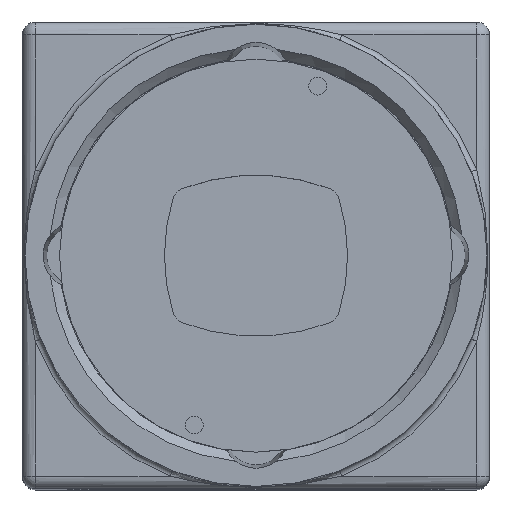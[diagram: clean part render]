
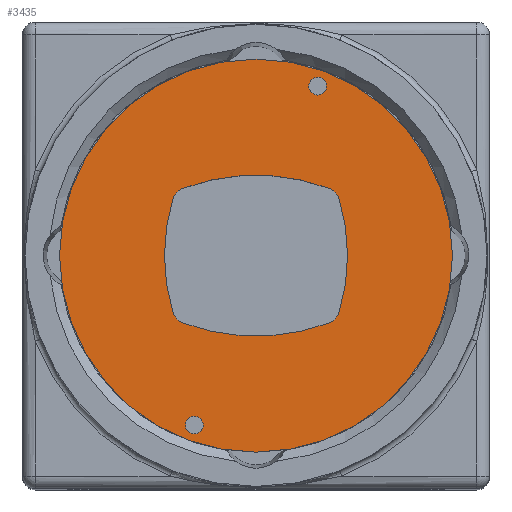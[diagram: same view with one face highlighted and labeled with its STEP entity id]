
A CAD part, top view. The second image highlights one B-rep face of the part: STEP entity #3435.
In plain terms, the highlighted planar face has unit normal (0, 0, 1).
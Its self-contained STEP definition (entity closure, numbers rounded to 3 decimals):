
#3435 = ADVANCED_FACE( '', ( #8530, #8531, #8532, #8533 ), #8534, .F. );
#8530 = FACE_BOUND( '', #16035, .T. );
#8531 = FACE_BOUND( '', #16036, .T. );
#8532 = FACE_BOUND( '', #16037, .T. );
#8533 = FACE_OUTER_BOUND( '', #16038, .T. );
#8534 = PLANE( '', #16039 );
#16035 = EDGE_LOOP( '', ( #27553 ) );
#16036 = EDGE_LOOP( '', ( #27554 ) );
#16037 = EDGE_LOOP( '', ( #27555, #27556, #27557, #27558, #27559, #27560, #27561, #27562 ) );
#16038 = EDGE_LOOP( '', ( #27563 ) );
#16039 = AXIS2_PLACEMENT_3D( '', #27564, #27565, #27566 );
#27553 = ORIENTED_EDGE( '', *, *, #38479, .T. );
#27554 = ORIENTED_EDGE( '', *, *, #39072, .T. );
#27555 = ORIENTED_EDGE( '', *, *, #39073, .T. );
#27556 = ORIENTED_EDGE( '', *, *, #37769, .T. );
#27557 = ORIENTED_EDGE( '', *, *, #39074, .T. );
#27558 = ORIENTED_EDGE( '', *, *, #39075, .T. );
#27559 = ORIENTED_EDGE( '', *, *, #39076, .T. );
#27560 = ORIENTED_EDGE( '', *, *, #39077, .T. );
#27561 = ORIENTED_EDGE( '', *, *, #39078, .T. );
#27562 = ORIENTED_EDGE( '', *, *, #39079, .T. );
#27563 = ORIENTED_EDGE( '', *, *, #39080, .F. );
#27564 = CARTESIAN_POINT( '', ( 1.907, 5.239, 5.8 ) );
#27565 = DIRECTION( '', ( 0., 0., -1. ) );
#27566 = DIRECTION( '', ( -1., 0., 0. ) );
#37769 = EDGE_CURVE( '', #43196, #43197, #43198, .T. );
#38479 = EDGE_CURVE( '', #44339, #44339, #44340, .T. );
#39072 = EDGE_CURVE( '', #45214, #45214, #45215, .T. );
#39073 = EDGE_CURVE( '', #45216, #43196, #45217, .T. );
#39074 = EDGE_CURVE( '', #43197, #45218, #45219, .T. );
#39075 = EDGE_CURVE( '', #45218, #45220, #45221, .T. );
#39076 = EDGE_CURVE( '', #45220, #45222, #45223, .T. );
#39077 = EDGE_CURVE( '', #45222, #45224, #45225, .T. );
#39078 = EDGE_CURVE( '', #45224, #45226, #45227, .T. );
#39079 = EDGE_CURVE( '', #45226, #45216, #45228, .T. );
#39080 = EDGE_CURVE( '', #45229, #45229, #45230, .T. );
#43196 = VERTEX_POINT( '', #51126 );
#43197 = VERTEX_POINT( '', #51127 );
#43198 = CIRCLE( '', #51128, 1. );
#44339 = VERTEX_POINT( '', #53004 );
#44340 = CIRCLE( '', #53005, 0.55 );
#45214 = VERTEX_POINT( '', #54242 );
#45215 = CIRCLE( '', #54243, 0.55 );
#45216 = VERTEX_POINT( '', #54244 );
#45217 = CIRCLE( '', #54245, 12. );
#45218 = VERTEX_POINT( '', #54246 );
#45219 = CIRCLE( '', #54247, 13. );
#45220 = VERTEX_POINT( '', #54248 );
#45221 = CIRCLE( '', #54249, 1. );
#45222 = VERTEX_POINT( '', #54250 );
#45223 = CIRCLE( '', #54251, 12. );
#45224 = VERTEX_POINT( '', #54252 );
#45225 = CIRCLE( '', #54253, 1. );
#45226 = VERTEX_POINT( '', #54254 );
#45227 = CIRCLE( '', #54255, 13. );
#45228 = CIRCLE( '', #54256, 1. );
#45229 = VERTEX_POINT( '', #54257 );
#45230 = CIRCLE( '', #54258, 12.2 );
#51126 = CARTESIAN_POINT( '', ( 5.153, -3.537, 5.8 ) );
#51127 = CARTESIAN_POINT( '', ( 4.548, -4.179, 5.8 ) );
#51128 = AXIS2_PLACEMENT_3D( '', #60167, #60168, #60169 );
#53004 = CARTESIAN_POINT( '', ( -3.831, -11.075, 5.8 ) );
#53005 = AXIS2_PLACEMENT_3D( '', #61013, #61014, #61015 );
#54242 = CARTESIAN_POINT( '', ( 3.831, 9.975, 5.8 ) );
#54243 = AXIS2_PLACEMENT_3D( '', #61707, #61708, #61709 );
#54244 = CARTESIAN_POINT( '', ( 5.153, 3.537, 5.8 ) );
#54245 = AXIS2_PLACEMENT_3D( '', #61710, #61711, #61712 );
#54246 = CARTESIAN_POINT( '', ( -4.548, -4.179, 5.8 ) );
#54247 = AXIS2_PLACEMENT_3D( '', #61713, #61714, #61715 );
#54248 = CARTESIAN_POINT( '', ( -5.153, -3.537, 5.8 ) );
#54249 = AXIS2_PLACEMENT_3D( '', #61716, #61717, #61718 );
#54250 = CARTESIAN_POINT( '', ( -5.153, 3.537, 5.8 ) );
#54251 = AXIS2_PLACEMENT_3D( '', #61719, #61720, #61721 );
#54252 = CARTESIAN_POINT( '', ( -4.548, 4.179, 5.8 ) );
#54253 = AXIS2_PLACEMENT_3D( '', #61722, #61723, #61724 );
#54254 = CARTESIAN_POINT( '', ( 4.548, 4.179, 5.8 ) );
#54255 = AXIS2_PLACEMENT_3D( '', #61725, #61726, #61727 );
#54256 = AXIS2_PLACEMENT_3D( '', #61728, #61729, #61730 );
#54257 = CARTESIAN_POINT( '', ( -12.2, 0., 5.8 ) );
#54258 = AXIS2_PLACEMENT_3D( '', #61731, #61732, #61733 );
#60167 = CARTESIAN_POINT( '', ( 4.198, -3.242, 5.8 ) );
#60168 = DIRECTION( '', ( 0., 0., -1. ) );
#60169 = DIRECTION( '', ( -1., 0., 0. ) );
#61013 = CARTESIAN_POINT( '', ( -3.831, -10.525, 5.8 ) );
#61014 = DIRECTION( '', ( 0., 0., -1. ) );
#61015 = DIRECTION( '', ( 0., -1., 0. ) );
#61707 = CARTESIAN_POINT( '', ( 3.831, 10.525, 5.8 ) );
#61708 = DIRECTION( '', ( 0., 0., -1. ) );
#61709 = DIRECTION( '', ( 0., -1., 0. ) );
#61710 = CARTESIAN_POINT( '', ( -6.314, 0., 5.8 ) );
#61711 = DIRECTION( '', ( 0., 0., -1. ) );
#61712 = DIRECTION( '', ( -1., 0., 0. ) );
#61713 = CARTESIAN_POINT( '', ( 0., 8., 5.8 ) );
#61714 = DIRECTION( '', ( 0., 0., -1. ) );
#61715 = DIRECTION( '', ( 1., 0., 0. ) );
#61716 = CARTESIAN_POINT( '', ( -4.198, -3.242, 5.8 ) );
#61717 = DIRECTION( '', ( 0., 0., -1. ) );
#61718 = DIRECTION( '', ( -1., 0., 0. ) );
#61719 = CARTESIAN_POINT( '', ( 6.314, 0., 5.8 ) );
#61720 = DIRECTION( '', ( 0., 0., -1. ) );
#61721 = DIRECTION( '', ( 1., 0., 0. ) );
#61722 = CARTESIAN_POINT( '', ( -4.198, 3.242, 5.8 ) );
#61723 = DIRECTION( '', ( 0., 0., -1. ) );
#61724 = DIRECTION( '', ( -1., 0., 0. ) );
#61725 = CARTESIAN_POINT( '', ( 0., -8., 5.8 ) );
#61726 = DIRECTION( '', ( 0., 0., -1. ) );
#61727 = DIRECTION( '', ( 1., 0., 0. ) );
#61728 = CARTESIAN_POINT( '', ( 4.198, 3.242, 5.8 ) );
#61729 = DIRECTION( '', ( 0., 0., -1. ) );
#61730 = DIRECTION( '', ( -1., 0., 0. ) );
#61731 = CARTESIAN_POINT( '', ( 0., 0., 5.8 ) );
#61732 = DIRECTION( '', ( 0., 0., -1. ) );
#61733 = DIRECTION( '', ( -1., 0., 0. ) );
